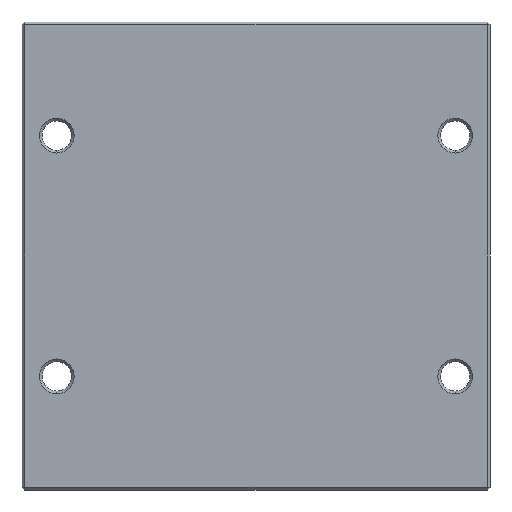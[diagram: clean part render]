
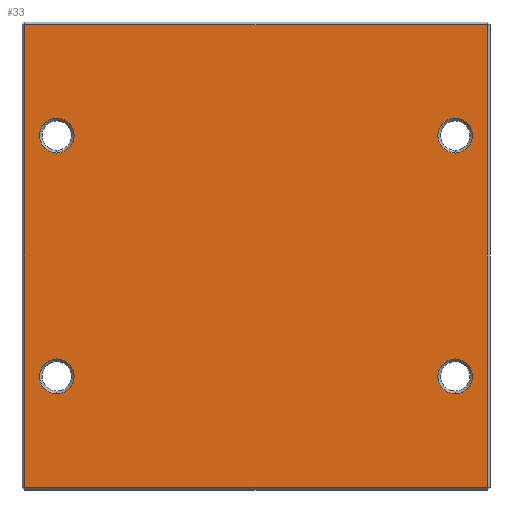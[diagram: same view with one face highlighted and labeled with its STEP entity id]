
A CAD part, front view. The second image highlights one B-rep face of the part: STEP entity #33.
In plain terms, the highlighted planar face has unit normal (0, -1, 0).
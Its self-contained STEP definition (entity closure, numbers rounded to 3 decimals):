
#3 = DIRECTION ( 'NONE',  ( 0., 0., 1. ) ) ;
#33 = ADVANCED_FACE ( 'NONE', ( #458, #414, #58, #1126, #1042 ), #519, .F. ) ;
#34 = VERTEX_POINT ( 'NONE', #875 ) ;
#39 = AXIS2_PLACEMENT_3D ( 'NONE', #1469, #721, #1585 ) ;
#58 = FACE_BOUND ( 'NONE', #834, .T. ) ;
#73 = EDGE_LOOP ( 'NONE', ( #1043, #1186, #901, #984 ) ) ;
#97 = VECTOR ( 'NONE', #1370, 1000. ) ;
#140 = EDGE_CURVE ( 'NONE', #461, #1091, #1181, .T. ) ;
#190 = VERTEX_POINT ( 'NONE', #288 ) ;
#223 = DIRECTION ( 'NONE',  ( 0., 0., 1. ) ) ;
#224 = EDGE_CURVE ( 'NONE', #898, #825, #696, .T. ) ;
#226 = DIRECTION ( 'NONE',  ( 0., 1., 0. ) ) ;
#288 = CARTESIAN_POINT ( 'NONE',  ( -74.5, 0., -38.5 ) ) ;
#316 = ORIENTED_EDGE ( 'NONE', *, *, #1287, .T. ) ;
#343 = VERTEX_POINT ( 'NONE', #1447 ) ;
#372 = AXIS2_PLACEMENT_3D ( 'NONE', #1361, #609, #1490 ) ;
#374 = CARTESIAN_POINT ( 'NONE',  ( 0., 0., 0. ) ) ;
#382 = VERTEX_POINT ( 'NONE', #700 ) ;
#385 = VERTEX_POINT ( 'NONE', #1325 ) ;
#388 = DIRECTION ( 'NONE',  ( 1., 0., 0. ) ) ;
#407 = AXIS2_PLACEMENT_3D ( 'NONE', #477, #1349, #599 ) ;
#414 = FACE_BOUND ( 'NONE', #856, .T. ) ;
#428 = EDGE_LOOP ( 'NONE', ( #560, #1293 ) ) ;
#458 = FACE_BOUND ( 'NONE', #1217, .T. ) ;
#461 = VERTEX_POINT ( 'NONE', #962 ) ;
#477 = CARTESIAN_POINT ( 'NONE',  ( -74.5, 0., 45. ) ) ;
#481 = DIRECTION ( 'NONE',  ( 0., 0., 1. ) ) ;
#491 = AXIS2_PLACEMENT_3D ( 'NONE', #601, #1483, #736 ) ;
#510 = AXIS2_PLACEMENT_3D ( 'NONE', #374, #822, #223 ) ;
#519 = PLANE ( 'NONE',  #510 ) ;
#520 = EDGE_CURVE ( 'NONE', #1091, #461, #1302, .T. ) ;
#525 = CARTESIAN_POINT ( 'NONE',  ( 74.5, 0., 38.5 ) ) ;
#534 = CIRCLE ( 'NONE', #372, 6.5 ) ;
#560 = ORIENTED_EDGE ( 'NONE', *, *, #715, .T. ) ;
#599 = DIRECTION ( 'NONE',  ( 0., 0., 1. ) ) ;
#600 = EDGE_CURVE ( 'NONE', #190, #34, #1352, .T. ) ;
#601 = CARTESIAN_POINT ( 'NONE',  ( 74.5, 0., 45. ) ) ;
#609 = DIRECTION ( 'NONE',  ( 0., 1., 0. ) ) ;
#620 = CARTESIAN_POINT ( 'NONE',  ( 0., 0., 86.5 ) ) ;
#625 = VECTOR ( 'NONE', #1511, 1000. ) ;
#635 = VERTEX_POINT ( 'NONE', #753 ) ;
#644 = CARTESIAN_POINT ( 'NONE',  ( 0., 0., -86.5 ) ) ;
#688 = EDGE_CURVE ( 'NONE', #1554, #382, #1197, .T. ) ;
#694 = CARTESIAN_POINT ( 'NONE',  ( 74.5, 0., 45. ) ) ;
#696 = CIRCLE ( 'NONE', #1401, 6.5 ) ;
#700 = CARTESIAN_POINT ( 'NONE',  ( 86.5, 0., 86.5 ) ) ;
#714 = LINE ( 'NONE', #769, #625 ) ;
#715 = EDGE_CURVE ( 'NONE', #34, #190, #534, .T. ) ;
#716 = ORIENTED_EDGE ( 'NONE', *, *, #140, .T. ) ;
#721 = DIRECTION ( 'NONE',  ( 0., 1., 0. ) ) ;
#736 = DIRECTION ( 'NONE',  ( 0., 0., 1. ) ) ;
#753 = CARTESIAN_POINT ( 'NONE',  ( -86.5, 0., 86.5 ) ) ;
#769 = CARTESIAN_POINT ( 'NONE',  ( -86.5, 0., 0. ) ) ;
#770 = DIRECTION ( 'NONE',  ( 0., 1., 0. ) ) ;
#779 = EDGE_CURVE ( 'NONE', #382, #635, #1494, .T. ) ;
#782 = CIRCLE ( 'NONE', #1328, 6.5 ) ;
#793 = DIRECTION ( 'NONE',  ( 0., 1., 0. ) ) ;
#805 = CARTESIAN_POINT ( 'NONE',  ( -74.5, 0., 51.5 ) ) ;
#816 = DIRECTION ( 'NONE',  ( 0., 0., 1. ) ) ;
#822 = DIRECTION ( 'NONE',  ( 0., 1., 0. ) ) ;
#825 = VERTEX_POINT ( 'NONE', #1632 ) ;
#834 = EDGE_LOOP ( 'NONE', ( #716, #1048 ) ) ;
#856 = EDGE_LOOP ( 'NONE', ( #1654, #1493 ) ) ;
#858 = EDGE_CURVE ( 'NONE', #635, #983, #714, .T. ) ;
#870 = VECTOR ( 'NONE', #481, 1000. ) ;
#875 = CARTESIAN_POINT ( 'NONE',  ( -74.5, 0., -51.5 ) ) ;
#898 = VERTEX_POINT ( 'NONE', #525 ) ;
#901 = ORIENTED_EDGE ( 'NONE', *, *, #858, .T. ) ;
#935 = EDGE_CURVE ( 'NONE', #983, #1554, #1508, .T. ) ;
#962 = CARTESIAN_POINT ( 'NONE',  ( -74.5, 0., 38.5 ) ) ;
#983 = VERTEX_POINT ( 'NONE', #1660 ) ;
#984 = ORIENTED_EDGE ( 'NONE', *, *, #935, .T. ) ;
#986 = ORIENTED_EDGE ( 'NONE', *, *, #1538, .T. ) ;
#989 = CARTESIAN_POINT ( 'NONE',  ( -74.5, 0., -45. ) ) ;
#1042 = FACE_OUTER_BOUND ( 'NONE', #73, .T. ) ;
#1043 = ORIENTED_EDGE ( 'NONE', *, *, #688, .T. ) ;
#1047 = CIRCLE ( 'NONE', #491, 6.5 ) ;
#1048 = ORIENTED_EDGE ( 'NONE', *, *, #520, .T. ) ;
#1091 = VERTEX_POINT ( 'NONE', #805 ) ;
#1124 = DIRECTION ( 'NONE',  ( 0., 0., 1. ) ) ;
#1126 = FACE_BOUND ( 'NONE', #428, .T. ) ;
#1175 = VECTOR ( 'NONE', #388, 1000. ) ;
#1181 = CIRCLE ( 'NONE', #1515, 6.5 ) ;
#1186 = ORIENTED_EDGE ( 'NONE', *, *, #779, .T. ) ;
#1197 = LINE ( 'NONE', #1228, #870 ) ;
#1213 = CIRCLE ( 'NONE', #39, 6.5 ) ;
#1217 = EDGE_LOOP ( 'NONE', ( #986, #316 ) ) ;
#1228 = CARTESIAN_POINT ( 'NONE',  ( 86.5, 0., 0. ) ) ;
#1287 = EDGE_CURVE ( 'NONE', #385, #343, #1213, .T. ) ;
#1293 = ORIENTED_EDGE ( 'NONE', *, *, #600, .T. ) ;
#1302 = CIRCLE ( 'NONE', #407, 6.5 ) ;
#1325 = CARTESIAN_POINT ( 'NONE',  ( 74.5, 0., -38.5 ) ) ;
#1328 = AXIS2_PLACEMENT_3D ( 'NONE', #1513, #770, #1637 ) ;
#1349 = DIRECTION ( 'NONE',  ( 0., 1., 0. ) ) ;
#1352 = CIRCLE ( 'NONE', #1424, 6.5 ) ;
#1361 = CARTESIAN_POINT ( 'NONE',  ( -74.5, 0., -45. ) ) ;
#1367 = EDGE_CURVE ( 'NONE', #825, #898, #1047, .T. ) ;
#1370 = DIRECTION ( 'NONE',  ( -1., 0., 0. ) ) ;
#1392 = CARTESIAN_POINT ( 'NONE',  ( 86.5, 0., -86.5 ) ) ;
#1401 = AXIS2_PLACEMENT_3D ( 'NONE', #694, #1559, #816 ) ;
#1424 = AXIS2_PLACEMENT_3D ( 'NONE', #989, #226, #1124 ) ;
#1447 = CARTESIAN_POINT ( 'NONE',  ( 74.5, 0., -51.5 ) ) ;
#1469 = CARTESIAN_POINT ( 'NONE',  ( 74.5, 0., -45. ) ) ;
#1483 = DIRECTION ( 'NONE',  ( 0., 1., 0. ) ) ;
#1490 = DIRECTION ( 'NONE',  ( 0., 0., 1. ) ) ;
#1493 = ORIENTED_EDGE ( 'NONE', *, *, #1367, .T. ) ;
#1494 = LINE ( 'NONE', #620, #97 ) ;
#1508 = LINE ( 'NONE', #644, #1175 ) ;
#1511 = DIRECTION ( 'NONE',  ( 0., 0., -1. ) ) ;
#1513 = CARTESIAN_POINT ( 'NONE',  ( 74.5, 0., -45. ) ) ;
#1515 = AXIS2_PLACEMENT_3D ( 'NONE', #1537, #793, #3 ) ;
#1537 = CARTESIAN_POINT ( 'NONE',  ( -74.5, 0., 45. ) ) ;
#1538 = EDGE_CURVE ( 'NONE', #343, #385, #782, .T. ) ;
#1554 = VERTEX_POINT ( 'NONE', #1392 ) ;
#1559 = DIRECTION ( 'NONE',  ( 0., 1., 0. ) ) ;
#1585 = DIRECTION ( 'NONE',  ( 0., 0., 1. ) ) ;
#1632 = CARTESIAN_POINT ( 'NONE',  ( 74.5, 0., 51.5 ) ) ;
#1637 = DIRECTION ( 'NONE',  ( 0., 0., 1. ) ) ;
#1654 = ORIENTED_EDGE ( 'NONE', *, *, #224, .T. ) ;
#1660 = CARTESIAN_POINT ( 'NONE',  ( -86.5, 0., -86.5 ) ) ;
